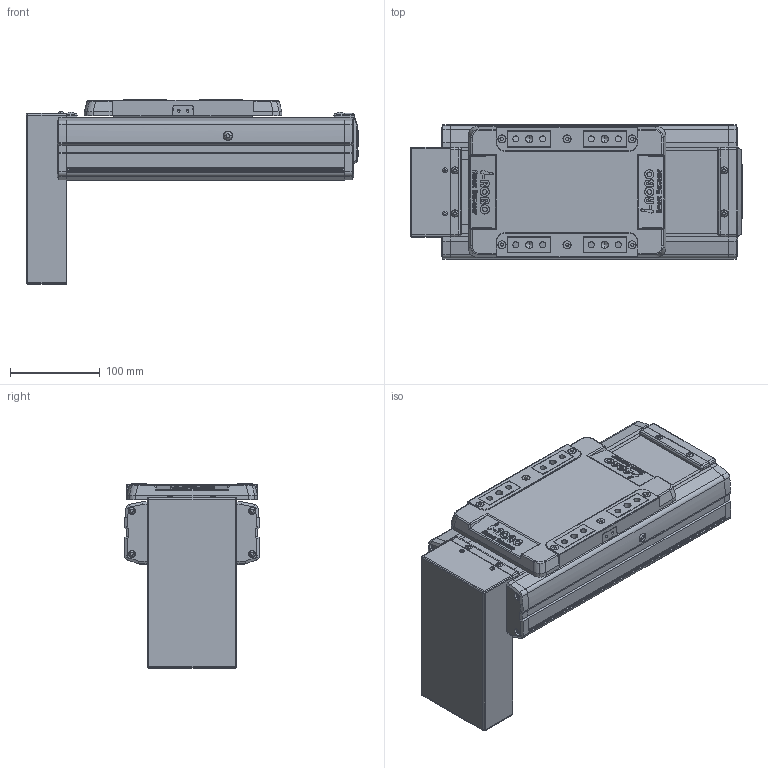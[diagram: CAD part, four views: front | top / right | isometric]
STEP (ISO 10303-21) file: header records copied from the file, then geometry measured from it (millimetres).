
FILE_DESCRIPTION(('STEP AP214'),'1');
FILE_NAME('Z:/Web/3D/SAN150/2013.04 (STP.)/SAN150ㅁㅁ-50PB.stp','2013-05-08T03:07:04',(' '),(' '),'Spatial InterOp 3D',' ',' ');
FILE_SCHEMA(('automotive_design'));
Length unit declared in the file: millimetre
Products named in the file (38): SLBL-SAN150; SLCV-SAN150; FHCS M4.0 x 8.0; BHCS M4.0 x 10.0; SFX-SAN150; RRCV-SAN150; FRBL-SAN150; Spacer; RN15; FRCV-SAN150; Screw 20; BASE-SAN150-000L ; SUS COVER; 스크루 : Round - M5.0 x 6.0; PB; 스크루 : Round - M3.0 x 6.0
Bounding box: 370 x 150 x 205.4 mm (x, y, z)
Volume: 3343549.9 mm3; surface area: 553640.4 mm2
Topology: 38 solids, 38 shells, 1959 faces, 5027 edges, 3216 vertices
Faces by surface type: plane 997, cylinder 675, cone 198, sphere 56, bspline 21, torus 12
Entity records: 77222 total; most frequent: CARTESIAN_POINT 12206, DIRECTION 10652, ORIENTED_EDGE 9878, EDGE_CURVE 4939, AXIS2_PLACEMENT_3D 3797, VERTEX_POINT 3216, LINE 3058, VECTOR 3058
